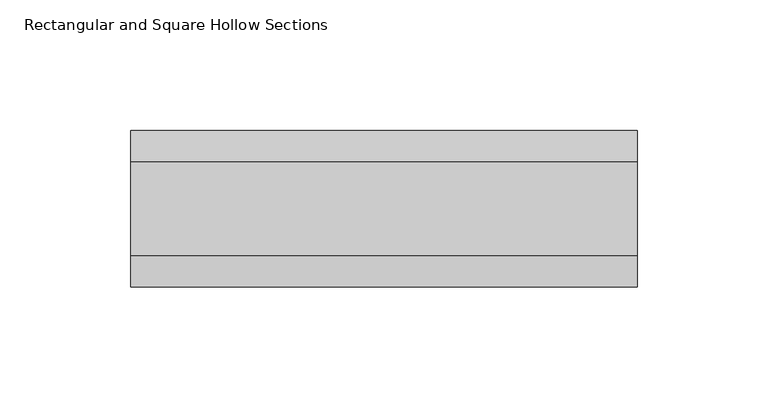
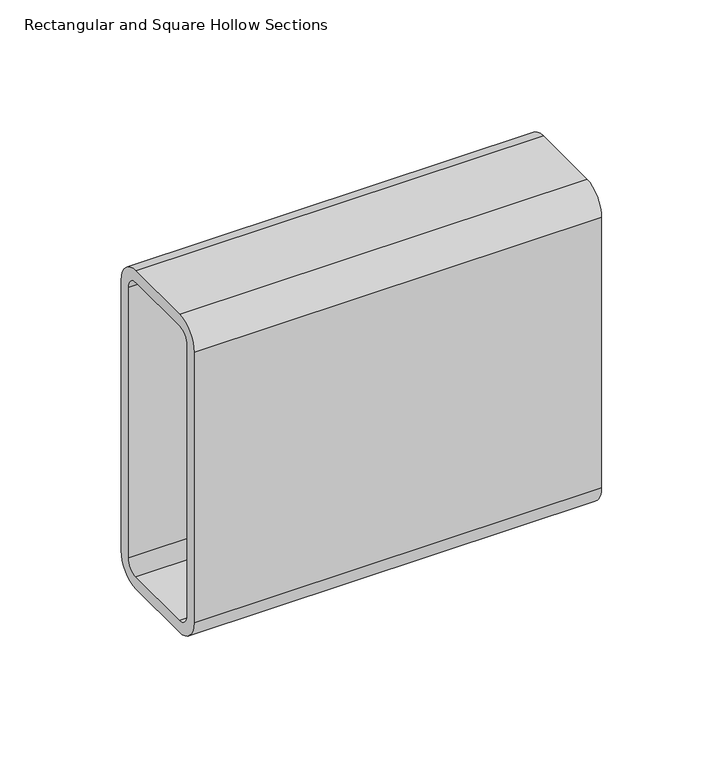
"""IFC4 building model written with IfcOpenShell, lengths in millimetres: beam geometry, Rectangular and Square Hollow Sections : TREC160x60x6."""

from ifc_helpers import new_model, si_unit, point, frame, frame_2d, origin, place, context, project, spatial, polyline, circle_curve, trimmed, segment, composite_curve, outline, extrude, source, transform, mapped, element, save


def rectangular_and_square_hollow_sections_7b8385d6(model_context):
    return source(origin(), model_context, "Body", "SweptSolid", [
        extrude(outline(composite_curve([segment(polyline([(30.0, 68.0), (30.0, -68.0)]), True, "CONTINUOUS"), segment(trimmed(circle_curve(frame_2d((18.0, -68.0)), 12.0), [point((30.0, -68.0))], [point((18.0, -80.0))], False, "CARTESIAN"), True, "CONTINUOUS"), segment(polyline([(18.0, -80.0), (-18.0, -80.0)]), True, "CONTINUOUS"), segment(trimmed(circle_curve(frame_2d((-18.0, -68.0)), 12.0), [point((-18.0, -80.0))], [point((-30.0, -68.0))], False, "CARTESIAN"), True, "CONTINUOUS"), segment(polyline([(-30.0, -68.0), (-30.0, 68.0)]), True, "CONTINUOUS"), segment(trimmed(circle_curve(frame_2d((-18.0, 68.0)), 12.0), [point((-30.0, 68.0))], [point((-18.0, 80.0))], False, "CARTESIAN"), True, "CONTINUOUS"), segment(polyline([(-18.0, 80.0), (18.0, 80.0)]), True, "CONTINUOUS"), segment(trimmed(circle_curve(frame_2d((18.0, 68.0)), 12.0), [point((18.0, 80.0))], [point((30.0, 68.0))], False, "CARTESIAN"), True, "CONTINUOUS")], self_intersect=False), holes=[composite_curve([segment(trimmed(circle_curve(frame_2d((-18.0, 68.0)), 6.0), [point((-18.0, 74.0))], [point((-24.0, 68.0))], True, "CARTESIAN"), True, "CONTINUOUS"), segment(polyline([(-24.0, 68.0), (-24.0, -68.0)]), True, "CONTINUOUS"), segment(trimmed(circle_curve(frame_2d((-18.0, -68.0)), 6.0), [point((-24.0, -68.0))], [point((-18.0, -74.0))], True, "CARTESIAN"), True, "CONTINUOUS"), segment(polyline([(-18.0, -74.0), (18.0, -74.0)]), True, "CONTINUOUS"), segment(trimmed(circle_curve(frame_2d((18.0, -68.0)), 6.0), [point((18.0, -74.0))], [point((24.0, -68.0))], True, "CARTESIAN"), True, "CONTINUOUS"), segment(polyline([(24.0, -68.0), (24.0, 68.0)]), True, "CONTINUOUS"), segment(trimmed(circle_curve(frame_2d((18.0, 68.0)), 6.0), [point((24.0, 68.0))], [point((18.0, 74.0))], True, "CARTESIAN"), True, "CONTINUOUS"), segment(polyline([(18.0, 74.0), (-18.0, 74.0)]), True, "CONTINUOUS")], self_intersect=False)]), frame((-112.0, 0.0, 0.0), z_axis=(1.0, 0.0, 0.0), x_axis=(0.0, 1.0, 0.0)), (0.0, 0.0, 1.0), 194.0),
    ])


if __name__ == "__main__":
    model = new_model("IFC4")
    model_context = context("Model", 3, world=origin())
    ifc_project = project(units=[si_unit("LENGTHUNIT", "METRE", prefix="MILLI")], contexts=[model_context])
    site = spatial("IfcSite", under=ifc_project)
    building = spatial("IfcBuilding", under=site)
    placement = place(None, origin())
    rectangular_and_square_hollow_sections_shape = rectangular_and_square_hollow_sections_7b8385d6(model_context)
    element("IfcBeam", 1, ObjectType="Rectangular and Square Hollow Sections : TREC160x60x6", at=placement, inside=building, context=model_context, shape_type="MappedRepresentation", body=[
        mapped(rectangular_and_square_hollow_sections_shape, transform((0.0, 0.0, 0.0), x_axis=(1.0, 0.0, 0.0), y_axis=(0.0, 1.0, 0.0), z_axis=(0.0, 0.0, 1.0))),
    ])
    save(model, "model.ifc")
